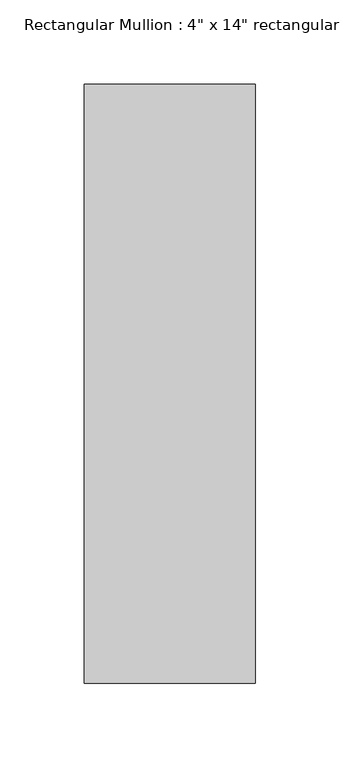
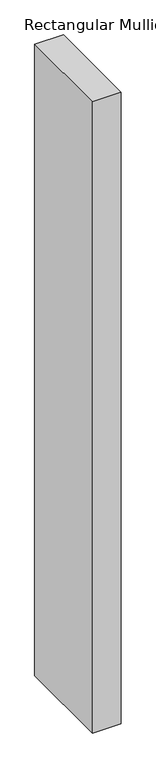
"""IFC4 building model written with IfcOpenShell, lengths in millimetres: member geometry."""

from ifc_helpers import new_model, si_unit, frame, origin, place, context, project, spatial, polyline, outline, extrude, source, transform, mapped, element, save


def member_14ca0a31(model_context):
    return source(origin(), model_context, "Body", "SweptSolid", [
        extrude(outline(polyline([(50.8, 342.9), (50.8, -12.7), (-50.8, -12.7), (-50.8, 342.9), (50.8, 342.9)])), frame((0.0, 0.0, -2366.173529), z_axis=(0.0, 0.0, 1.0), x_axis=(1.0, 0.0, 0.0)), (0.0, 0.0, 1.0), 2366.173529),
    ])


if __name__ == "__main__":
    model = new_model("IFC4")
    model_context = context("Model", 3, world=origin())
    ifc_project = project(units=[si_unit("LENGTHUNIT", "METRE", prefix="MILLI")], contexts=[model_context])
    site = spatial("IfcSite", under=ifc_project)
    building = spatial("IfcBuilding", under=site)
    placement = place(None, origin())
    member_shape = member_14ca0a31(model_context)
    element("IfcMember", 1, ObjectType="Rectangular Mullion : 4\" x 14\" rectangular", at=placement, inside=building, context=model_context, shape_type="MappedRepresentation", body=[
        mapped(member_shape, transform((0.0, 0.0, 0.0), x_axis=(1.0, 0.0, 0.0), y_axis=(0.0, 1.0, 0.0), z_axis=(0.0, 0.0, 1.0))),
    ])
    save(model, "model.ifc")
